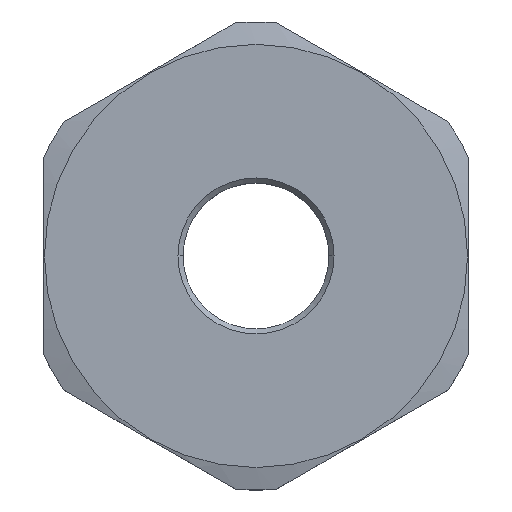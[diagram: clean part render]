
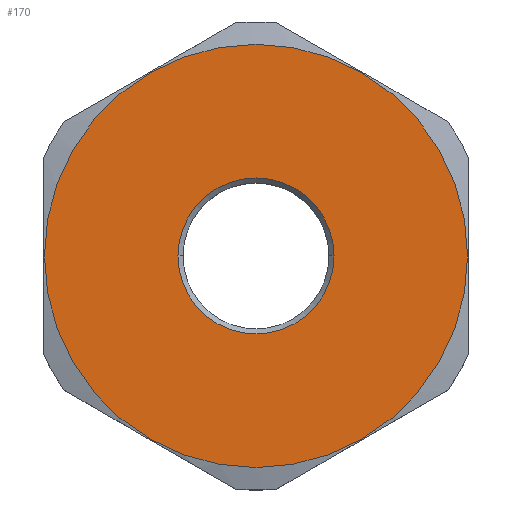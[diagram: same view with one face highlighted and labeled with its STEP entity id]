
A CAD part, top view. The second image highlights one B-rep face of the part: STEP entity #170.
In plain terms, the highlighted planar face has unit normal (0, 0, 1).
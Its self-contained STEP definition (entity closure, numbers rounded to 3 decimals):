
#170 = ADVANCED_FACE ( 'NONE', ( #1106, #1062 ), #1093, .F. ) ;
#178 = EDGE_LOOP ( 'NONE', ( #179, #204 ) ) ;
#179 = ORIENTED_EDGE ( 'NONE', *, *, #180, .F. ) ;
#180 = EDGE_CURVE ( 'NONE', #765, #762, #1116, .T. ) ;
#181 = ORIENTED_EDGE ( 'NONE', *, *, #220, .T. ) ;
#204 = ORIENTED_EDGE ( 'NONE', *, *, #764, .F. ) ;
#205 = EDGE_LOOP ( 'NONE', ( #181, #232 ) ) ;
#220 = EDGE_CURVE ( 'NONE', #864, #863, #1162, .T. ) ;
#232 = ORIENTED_EDGE ( 'NONE', *, *, #862, .T. ) ;
#762 = VERTEX_POINT ( 'NONE', #1570 ) ;
#764 = EDGE_CURVE ( 'NONE', #762, #765, #1579, .T. ) ;
#765 = VERTEX_POINT ( 'NONE', #1580 ) ;
#862 = EDGE_CURVE ( 'NONE', #863, #864, #1727, .T. ) ;
#863 = VERTEX_POINT ( 'NONE', #1729 ) ;
#864 = VERTEX_POINT ( 'NONE', #1728 ) ;
#1062 = FACE_OUTER_BOUND ( 'NONE', #205, .T. ) ;
#1067 = DIRECTION ( 'NONE',  ( 1., 0., 0. ) ) ;
#1068 = DIRECTION ( 'NONE',  ( 0., 0., 1. ) ) ;
#1072 = DIRECTION ( 'NONE',  ( -1., 0., 0. ) ) ;
#1090 = DIRECTION ( 'NONE',  ( 0., 0., -1. ) ) ;
#1091 = CARTESIAN_POINT ( 'NONE',  ( 0., 0., 0. ) ) ;
#1092 = AXIS2_PLACEMENT_3D ( 'NONE', #1091, #1090, #1072 ) ;
#1093 = PLANE ( 'NONE',  #1092 ) ;
#1106 = FACE_BOUND ( 'NONE', #178, .T. ) ;
#1114 = CARTESIAN_POINT ( 'NONE',  ( 0., 0., 0. ) ) ;
#1115 = AXIS2_PLACEMENT_3D ( 'NONE', #1114, #1068, #1067 ) ;
#1116 = CIRCLE ( 'NONE', #1115, 12.5 ) ;
#1158 = DIRECTION ( 'NONE',  ( 1., 0., 0. ) ) ;
#1159 = DIRECTION ( 'NONE',  ( 0., 0., 1. ) ) ;
#1160 = CARTESIAN_POINT ( 'NONE',  ( 0., 0., 0. ) ) ;
#1161 = AXIS2_PLACEMENT_3D ( 'NONE', #1160, #1159, #1158 ) ;
#1162 = CIRCLE ( 'NONE', #1161, 33.9 ) ;
#1570 = CARTESIAN_POINT ( 'NONE',  ( -12.5, 0., 0. ) ) ;
#1576 = DIRECTION ( 'NONE',  ( 0., 0., 1. ) ) ;
#1577 = CARTESIAN_POINT ( 'NONE',  ( 0., 0., 0. ) ) ;
#1578 = AXIS2_PLACEMENT_3D ( 'NONE', #1577, #1576, #1581 ) ;
#1579 = CIRCLE ( 'NONE', #1578, 12.5 ) ;
#1580 = CARTESIAN_POINT ( 'NONE',  ( 12.5, 0., 0. ) ) ;
#1581 = DIRECTION ( 'NONE',  ( 1., 0., 0. ) ) ;
#1724 = DIRECTION ( 'NONE',  ( 0., 0., 1. ) ) ;
#1725 = CARTESIAN_POINT ( 'NONE',  ( 0., 0., 0. ) ) ;
#1726 = AXIS2_PLACEMENT_3D ( 'NONE', #1725, #1724, #1730 ) ;
#1727 = CIRCLE ( 'NONE', #1726, 33.9 ) ;
#1728 = CARTESIAN_POINT ( 'NONE',  ( -33.9, 0., 0. ) ) ;
#1729 = CARTESIAN_POINT ( 'NONE',  ( 33.9, 0., 0. ) ) ;
#1730 = DIRECTION ( 'NONE',  ( 1., 0., 0. ) ) ;
